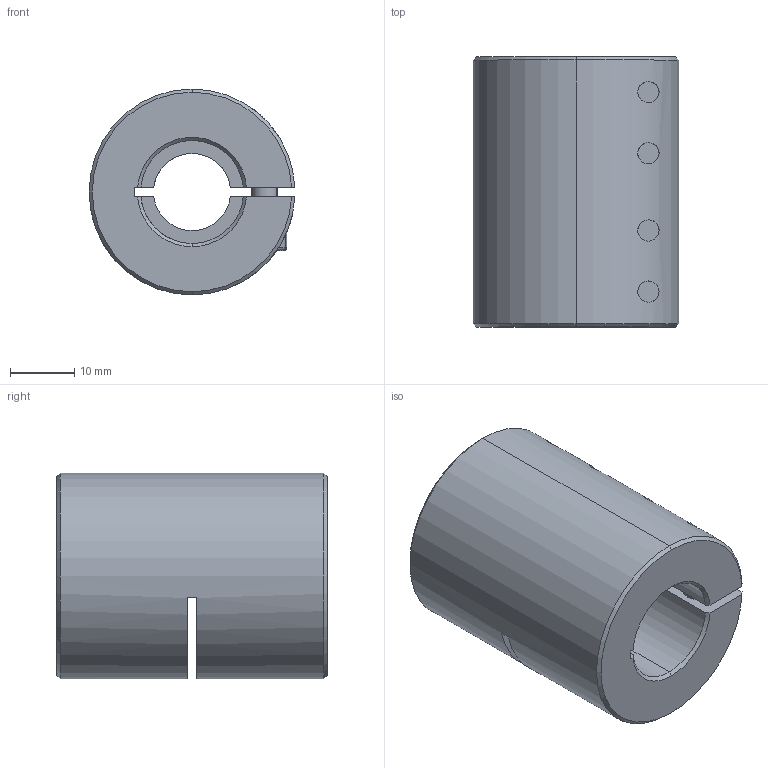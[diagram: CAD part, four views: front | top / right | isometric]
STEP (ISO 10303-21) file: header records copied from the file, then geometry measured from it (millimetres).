
FILE_DESCRIPTION (( 'STEP AP203' ), '1' );
FILE_NAME ('LL-B-D32L42-12-16.STEP', '2021-11-05T07:51:27', ( '' ), ( '' ), 'SwSTEP 2.0', 'SolidWorks 2018', '' );
FILE_SCHEMA (( 'CONFIG_CONTROL_DESIGN' ));
Length unit declared in the file: millimetre
Products named in the file (1): LL-B-D32L42-12-16
Bounding box: 31.98 x 42 x 32 mm (x, y, z)
Volume: 25021 mm3; surface area: 10307.9 mm2
Topology: 1 solids, 1 shells, 192 faces, 489 edges, 307 vertices
Faces by surface type: plane 88, cylinder 76, cone 20, torus 8
Entity records: 6343 total; most frequent: CARTESIAN_POINT 1553, DIRECTION 1032, ORIENTED_EDGE 962, EDGE_CURVE 481, AXIS2_PLACEMENT_3D 402, VERTEX_POINT 307, LINE 228, VECTOR 228
